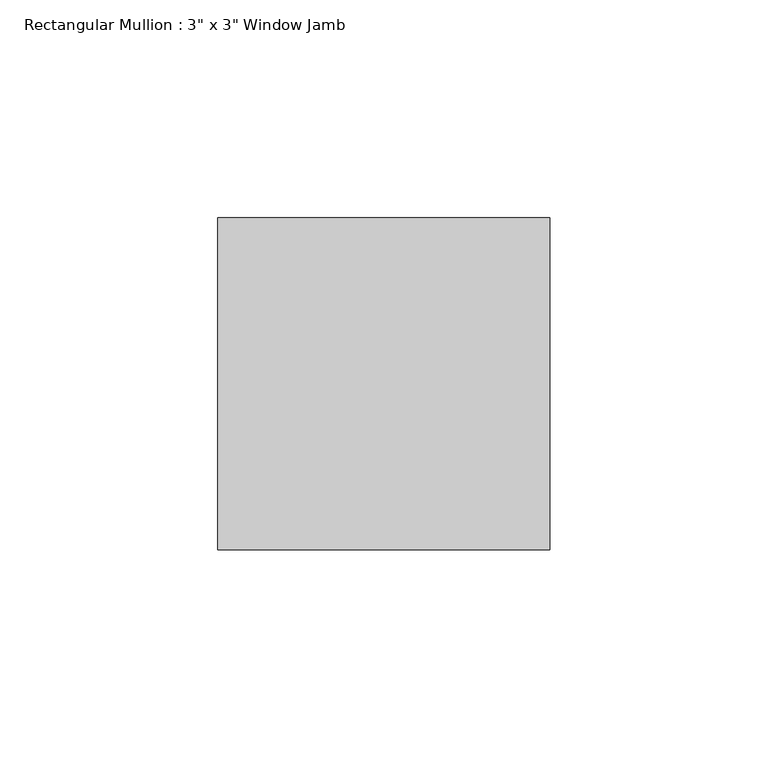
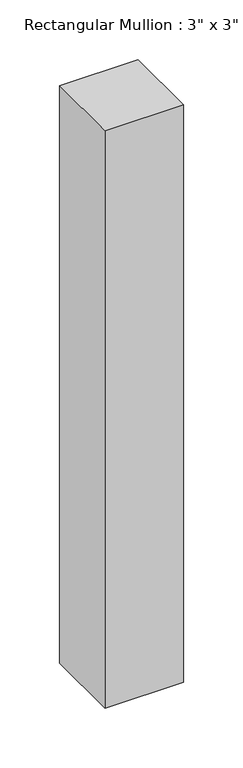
"""IFC4 building model written with IfcOpenShell, lengths in millimetres: member geometry."""

import ifcopenshell
import ifcopenshell.guid

model = None  # the IFC model being written
_history = None  # IfcOwnerHistory: only IFC2X3 demands one
_inside = {}  # id of a spatial element -> (the spatial element, [elements in it])
_under = {}  # id of a project, library or spatial element -> (it, [spatial elements below it])
_declared = {}  # id of a project -> (the project, [libraries it declares])
_typed = {}  # id of a type object -> (the type object, [elements of that type])
_made_of = {}  # id of a material, layer set ... -> (it, [elements and type objects made of it])


def new_model(schema):
    """Start an empty IFC model of exactly this schema.

    Asked for "IFC4X3", IfcOpenShell would pick the latest addendum, in which some entities
    have other attributes; the version numbers below select the first issue.
    IFC2X3 requires an IfcOwnerHistory on every rooted entity: one is made here for all.
    """
    global model, _history
    if schema == "IFC4X3":
        model = ifcopenshell.file(schema_version=(4, 3, 0, 0))
    else:
        model = ifcopenshell.file(schema=schema)
    _inside.clear()
    _under.clear()
    _declared.clear()
    _typed.clear()
    _made_of.clear()
    _history = None
    if model.schema == "IFC2X3":
        org = make("IfcOrganization", Name="unknown")
        user = make(
            "IfcPersonAndOrganization",
            ThePerson=make("IfcPerson", FamilyName="unknown"),
            TheOrganization=org,
        )
        app = make(
            "IfcApplication",
            ApplicationDeveloper=org,
            Version="unknown",
            ApplicationFullName="unknown",
            ApplicationIdentifier="unknown",
        )
        _history = make(
            "IfcOwnerHistory",
            OwningUser=user,
            OwningApplication=app,
            ChangeAction="ADDED",
            CreationDate=0,
        )
    return model


def make(cls, **values):
    """One entity of the class cls with the attributes given. An attribute that is None is left unset."""
    return model.create_entity(
        cls, **{name: value for name, value in values.items() if value is not None}
    )


def rooted(cls, **values):
    """An entity with a GlobalId (a new one), such as an element, a storey or a relation."""
    return make(cls, GlobalId=ifcopenshell.guid.new(), OwnerHistory=_history, **values)


def si_unit(unit_type, name, prefix=None):
    """IfcSIUnit, for example si_unit("LENGTHUNIT", "METRE", prefix="MILLI")."""
    return make("IfcSIUnit", UnitType=unit_type, Prefix=prefix, Name=name)


def assignment(units):
    """IfcUnitAssignment: the units of a project."""
    return None if units is None else make("IfcUnitAssignment", Units=units)


def point(xyz):
    """IfcCartesianPoint."""
    return None if xyz is None else make("IfcCartesianPoint", Coordinates=xyz)


def direction(xyz):
    """IfcDirection."""
    return None if xyz is None else make("IfcDirection", DirectionRatios=xyz)


def frame(location, z_axis=None, x_axis=None):
    """IfcAxis2Placement3D, a coordinate frame: its origin and axes. An axis left out is left unset."""
    return make(
        "IfcAxis2Placement3D",
        Location=point(location),
        Axis=direction(z_axis),
        RefDirection=direction(x_axis),
    )


def origin():
    """The frame at (0, 0, 0) with its axes left unset."""
    return frame((0.0, 0.0, 0.0))


def place(relative_to, where):
    """IfcLocalPlacement: puts the frame where relative to a parent placement (None: the world)."""
    return make(
        "IfcLocalPlacement", PlacementRelTo=relative_to, RelativePlacement=where
    )


def context(
    kind, dimensions, precision=None, world=None, true_north=None, identifier=None
):
    """IfcGeometricRepresentationContext, for example the 3D "Model" context."""
    return make(
        "IfcGeometricRepresentationContext",
        ContextIdentifier=identifier,
        ContextType=kind,
        CoordinateSpaceDimension=dimensions,
        Precision=precision,
        WorldCoordinateSystem=world,
        TrueNorth=true_north,
    )


def project(units=None, contexts=None):
    """IfcProject with its units and contexts."""
    return rooted(
        "IfcProject",
        Name="project",
        RepresentationContexts=contexts,
        UnitsInContext=assignment(units),
    )


def spatial(cls, under=None, at=None, **own):
    """A site, building, storey or space (cls), placed at a placement, below another one or the project."""
    s = rooted(cls, ObjectPlacement=at, **own)
    if under is not None:
        _under.setdefault(under.id(), (under, []))[1].append(s)
    return s


def polyline(points):
    """IfcPolyline through the points."""
    return make("IfcPolyline", Points=[point(p) for p in points])


def outline(outer, holes=None, kind="AREA"):
    """IfcArbitraryClosedProfileDef: a profile drawn as a closed curve; with holes, ...WithVoids."""
    if holes is None:
        return make("IfcArbitraryClosedProfileDef", ProfileType=kind, OuterCurve=outer)
    return make(
        "IfcArbitraryProfileDefWithVoids",
        ProfileType=kind,
        OuterCurve=outer,
        InnerCurves=holes,
    )


def extrude(swept, where, along, depth):
    """IfcExtrudedAreaSolid: the profile swept, set in the frame where, extruded along a direction by depth."""
    return make(
        "IfcExtrudedAreaSolid",
        SweptArea=swept,
        Position=where,
        ExtrudedDirection=direction(along),
        Depth=depth,
    )


def shape(context_of_items, identifier, shape_type, items):
    """IfcShapeRepresentation: the items that make up one representation, for example the "Body"."""
    return make(
        "IfcShapeRepresentation",
        ContextOfItems=context_of_items,
        RepresentationIdentifier=identifier,
        RepresentationType=shape_type,
        Items=items,
    )


def source(mapping_origin, context_of_items, identifier, shape_type, items):
    """IfcRepresentationMap: a shape defined once, which mapped items show again and again."""
    return make(
        "IfcRepresentationMap",
        MappingOrigin=mapping_origin,
        MappedRepresentation=shape(context_of_items, identifier, shape_type, items),
    )


def transform(
    local_origin,
    x_axis=None,
    y_axis=None,
    z_axis=None,
    scale=None,
    scale2=None,
    scale3=None,
    uniform=True,
):
    """IfcCartesianTransformationOperator3D, or its non-uniform kind. x_axis, y_axis, z_axis: its Axis1, 2, 3."""
    if uniform:
        return make(
            "IfcCartesianTransformationOperator3D",
            Axis1=direction(x_axis),
            Axis2=direction(y_axis),
            LocalOrigin=point(local_origin),
            Scale=scale,
            Axis3=direction(z_axis),
        )
    return make(
        "IfcCartesianTransformationOperator3DnonUniform",
        Axis1=direction(x_axis),
        Axis2=direction(y_axis),
        LocalOrigin=point(local_origin),
        Scale=scale,
        Axis3=direction(z_axis),
        Scale2=scale2,
        Scale3=scale3,
    )


def mapped(mapping_source, mapping_target):
    """IfcMappedItem: shows the shape of a source again, moved by a transform."""
    return make(
        "IfcMappedItem", MappingSource=mapping_source, MappingTarget=mapping_target
    )


def made_of(thing, what):
    """Note that an element or type object is made of a material, layer set ...; save() writes the relation."""
    if what is not None:
        _made_of.setdefault(what.id(), (what, []))[1].append(thing)
    return thing


def element(
    cls,
    number,
    at=None,
    inside=None,
    cuts=None,
    type_object=None,
    material=None,
    context=None,
    identifier="Body",
    shape_type=None,
    held_by="IfcProductDefinitionShape",
    body=None,
    shapes=None,
    **own,
):
    """One element of the class cls, such as IfcWall. Its Tag is "e" and its number.

    at: its placement. inside: the storey or other place that contains it. cuts: it is an
    opening in that element (IfcRelVoidsElement). A single representation is given by context,
    identifier, shape_type and body (its items); several are given by shapes. held_by: the class
    of the entity that holds the representations. save() writes the other relations.
    """
    e = rooted(cls, Tag="e%d" % number, ObjectPlacement=at, **own)
    if body is not None:
        shapes = [shape(context, identifier, shape_type, body)]
    if shapes is not None:
        e.Representation = make(held_by, Representations=shapes)
    if inside is not None:
        _inside.setdefault(inside.id(), (inside, []))[1].append(e)
    if cuts is not None:
        rooted(
            "IfcRelVoidsElement", RelatingBuildingElement=cuts, RelatedOpeningElement=e
        )
    if type_object is not None:
        _typed.setdefault(type_object.id(), (type_object, []))[1].append(e)
    return made_of(e, material)


def aggregate(whole, parts):
    """IfcRelAggregates: a whole, such as a stair, and the parts it consists of."""
    return rooted("IfcRelAggregates", RelatingObject=whole, RelatedObjects=parts)


def save(model, path):
    """Write the relations noted so far, then the file.

    IfcRelAggregates (storeys below a building ...), IfcRelContainedInSpatialStructure (elements
    in a storey), IfcRelDefinesByType, IfcRelAssociatesMaterial and IfcRelDeclares: one each for
    every whole, place, type object, material and project.
    """
    for whole, parts in _under.values():
        aggregate(whole, parts)
    for where, things in _inside.values():
        rooted(
            "IfcRelContainedInSpatialStructure",
            RelatedElements=things,
            RelatingStructure=where,
        )
    for kind, things in _typed.values():
        rooted("IfcRelDefinesByType", RelatedObjects=things, RelatingType=kind)
    for what, things in _made_of.values():
        rooted("IfcRelAssociatesMaterial", RelatedObjects=things, RelatingMaterial=what)
    for by, libraries in _declared.values():
        rooted("IfcRelDeclares", RelatingContext=by, RelatedDefinitions=libraries)
    model.write(path)


def member_be3d8693(model_context):
    return source(origin(), model_context, "Body", "SweptSolid", [
        extrude(outline(polyline([(0.0, 50.8), (0.0, -25.4), (-76.2, -25.4), (-76.2, 50.8), (0.0, 50.8)])), frame((0.0, 0.0, -591.3876141), z_axis=(0.0, 0.0, 1.0), x_axis=(1.0, 0.0, 0.0)), (0.0, 0.0, 1.0), 591.3876141),
    ])


if __name__ == "__main__":
    model = new_model("IFC4")
    model_context = context("Model", 3, world=origin())
    ifc_project = project(units=[si_unit("LENGTHUNIT", "METRE", prefix="MILLI")], contexts=[model_context])
    site = spatial("IfcSite", under=ifc_project)
    building = spatial("IfcBuilding", under=site)
    placement = place(None, origin())
    member_shape = member_be3d8693(model_context)
    element("IfcMember", 1, ObjectType="Rectangular Mullion : 3\" x 3\" Window Jamb", at=placement, inside=building, context=model_context, shape_type="MappedRepresentation", body=[
        mapped(member_shape, transform((0.0, 0.0, 0.0), x_axis=(1.0, 0.0, 0.0), y_axis=(0.0, 1.0, 0.0), z_axis=(0.0, 0.0, 1.0))),
    ])
    save(model, "model.ifc")
